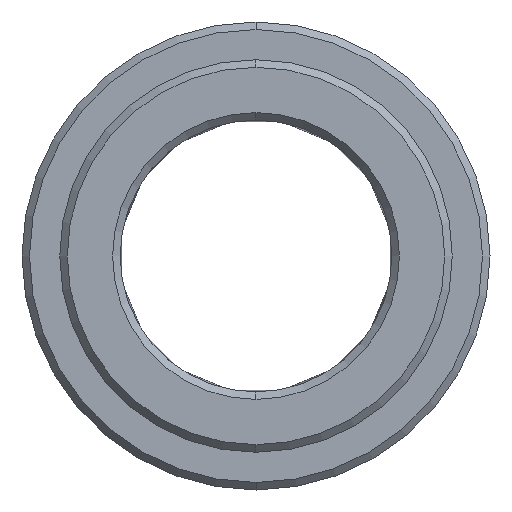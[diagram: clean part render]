
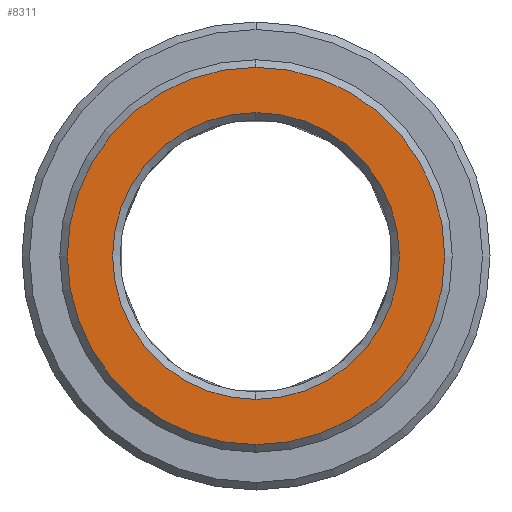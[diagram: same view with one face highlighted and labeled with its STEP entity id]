
A CAD part, left-side view. The second image highlights one B-rep face of the part: STEP entity #8311.
In plain terms, the highlighted planar face has unit normal (-1, 0, 0).
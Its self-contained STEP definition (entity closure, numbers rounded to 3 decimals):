
#3206=CARTESIAN_POINT('',(-8.,0.,
0.));
#3207=DIRECTION('',(1.,0.,0.));
#3208=DIRECTION('',(0.,0.,1.));
#3209=AXIS2_PLACEMENT_3D('',#3206,#3207,#3208);
#3211=CARTESIAN_POINT('',(-8.,0.,0.));
#3212=DIRECTION('',(1.,0.,0.));
#3213=DIRECTION('',(0.,0.,-1.));
#3214=AXIS2_PLACEMENT_3D('',#3211,#3212,#3213);
#3216=CARTESIAN_POINT('',(-8.,0.,0.));
#3217=DIRECTION('',(1.,0.,0.));
#3218=DIRECTION('',(0.,0.,1.));
#3219=AXIS2_PLACEMENT_3D('',#3216,#3217,#3218);
#3221=CARTESIAN_POINT('',(-8.,0.,0.));
#3222=DIRECTION('',(1.,0.,0.));
#3223=DIRECTION('',(0.,0.,-1.));
#3224=AXIS2_PLACEMENT_3D('',#3221,#3222,#3223);
#6938=CARTESIAN_POINT('',(-8.,0.,12.5));
#6939=CARTESIAN_POINT('',(-8.,0.,-12.5));
#6940=VERTEX_POINT('',#6938);
#6941=VERTEX_POINT('',#6939);
#6942=CARTESIAN_POINT('',(-8.,0.,9.5));
#6943=CARTESIAN_POINT('',(-8.,0.,-9.5));
#6944=VERTEX_POINT('',#6942);
#6945=VERTEX_POINT('',#6943);
#8295=CARTESIAN_POINT('',(-8.,0.,0.));
#8296=DIRECTION('',(1.,0.,0.));
#8297=DIRECTION('',(0.,0.,1.));
#8298=AXIS2_PLACEMENT_3D('',#8295,#8296,#8297);
#8299=PLANE('',#8298);
#8301=ORIENTED_EDGE('',*,*,#8300,.T.);
#8303=ORIENTED_EDGE('',*,*,#8302,.T.);
#8304=EDGE_LOOP('',(#8301,#8303));
#8305=FACE_OUTER_BOUND('',#8304,.F.);
#8307=ORIENTED_EDGE('',*,*,#8306,.F.);
#8308=ORIENTED_EDGE('',*,*,#8285,.F.);
#8309=EDGE_LOOP('',(#8307,#8308));
#8310=FACE_BOUND('',#8309,.F.);
#8311=ADVANCED_FACE('',(#8305,#8310),#8299,.F.);
#3210=CIRCLE('',#3209,12.5);
#3215=CIRCLE('',#3214,12.5);
#3220=CIRCLE('',#3219,9.5);
#3225=CIRCLE('',#3224,9.5);
#8285=EDGE_CURVE('',#6945,#6944,#3225,.T.);
#8300=EDGE_CURVE('',#6940,#6941,#3210,.T.);
#8302=EDGE_CURVE('',#6941,#6940,#3215,.T.);
#8306=EDGE_CURVE('',#6944,#6945,#3220,.T.);
